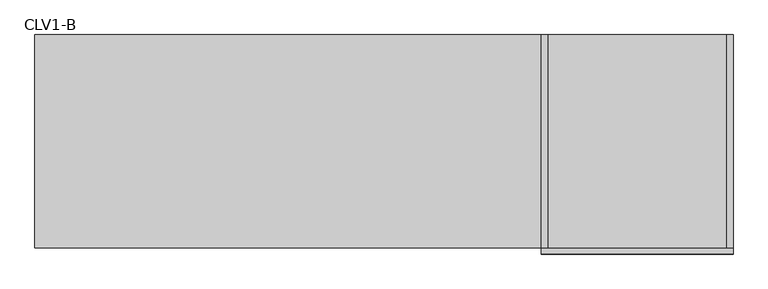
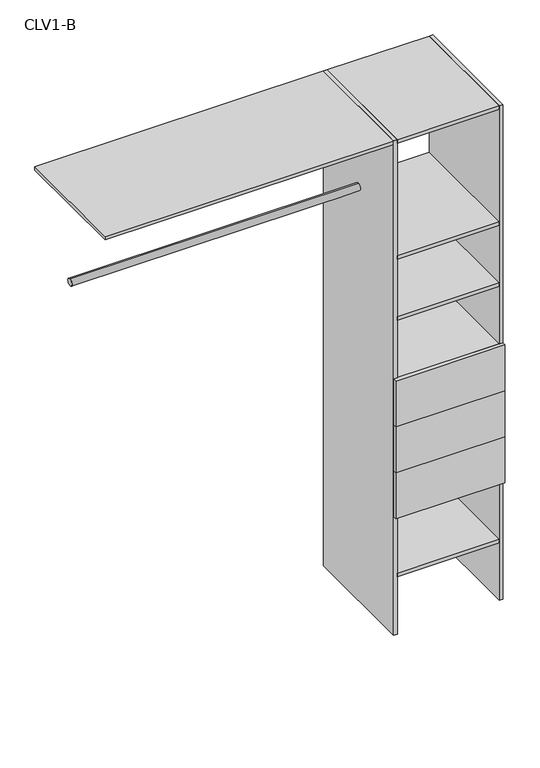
"""IFC4 building model written with IfcOpenShell, lengths in millimetres: furniture geometry, Closet 1estantes-1tubos_sin laterales : CLV1-B."""

from ifc_helpers import new_model, si_unit, point, frame, frame_2d, origin, origin_with_axes, place, context, project, spatial, polyline, circle_curve, trimmed, segment, composite_curve, outline, extrude, source, transform, mapped, element, save


def clv1_b_d41017fe(model_context):
    return source(origin(), model_context, "Body", "SweptSolid", [
        extrude(outline(polyline([(225.0, 100.0), (210.0, 100.0), (210.0, 600.0), (225.0, 600.0), (225.0, 100.0)])), origin_with_axes(), (0.0, 0.0, 1.0), 2150.0),
        extrude(outline(polyline([(-210.0, 100.0), (-225.0, 100.0), (-225.0, 600.0), (-210.0, 600.0), (-210.0, 100.0)])), origin_with_axes(), (0.0, 0.0, 1.0), 2150.0),
        extrude(outline(polyline([(225.0, 100.0), (225.0, 85.0), (-225.0, 85.0), (-225.0, 100.0), (225.0, 100.0)])), frame((0.0, 0.0, 915.0), z_axis=(0.0, 0.0, 1.0), x_axis=(1.0, 0.0, 0.0)), (0.0, 0.0, 1.0), 200.0),
        extrude(outline(polyline([(225.0, 100.0), (225.0, 85.0), (-225.0, 85.0), (-225.0, 100.0), (225.0, 100.0)])), frame((0.0, 0.0, 715.0), z_axis=(0.0, 0.0, 1.0), x_axis=(1.0, 0.0, 0.0)), (0.0, 0.0, 1.0), 200.0),
        extrude(outline(polyline([(225.0, 100.0), (225.0, 85.0), (-225.0, 85.0), (-225.0, 100.0), (225.0, 100.0)])), frame((0.0, 0.0, 515.0), z_axis=(0.0, 0.0, 1.0), x_axis=(1.0, 0.0, 0.0)), (0.0, 0.0, 1.0), 200.0),
        extrude(outline(polyline([(210.0, 100.0), (-210.0, 100.0), (-210.0, 600.0), (210.0, 600.0), (210.0, 100.0)])), frame((0.0, 0.0, 1100.0), z_axis=(0.0, 0.0, 1.0), x_axis=(1.0, 0.0, 0.0)), (0.0, 0.0, 1.0), 15.0),
        extrude(outline(composite_curve([segment(trimmed(circle_curve(frame_2d((350.0, 1800.0)), 15.0), [point((350.0, 1815.0))], [point((350.0, 1785.0))], False, "CARTESIAN"), True, "CONTINUOUS"), segment(trimmed(circle_curve(frame_2d((350.0, 1800.0)), 15.0), [point((350.0, 1785.0))], [point((350.0, 1815.0))], False, "CARTESIAN"), True, "CONTINUOUS")], self_intersect=False)), frame((-1413.0, 0.0, 0.0), z_axis=(1.0, 0.0, 0.0), x_axis=(0.0, 1.0, 0.0)), (0.0, 0.0, 1.0), 1188.0),
        extrude(outline(composite_curve([segment(trimmed(circle_curve(frame_2d((350.0, 1800.0)), 15.0), [point((350.0, 1815.0))], [point((350.0, 1785.0))], False, "CARTESIAN"), True, "CONTINUOUS"), segment(trimmed(circle_curve(frame_2d((350.0, 1800.0)), 15.0), [point((350.0, 1785.0))], [point((350.0, 1815.0))], False, "CARTESIAN"), True, "CONTINUOUS")], self_intersect=False)), frame((-1413.0, 0.0, 0.0), z_axis=(1.0, 0.0, 0.0), x_axis=(0.0, 1.0, 0.0)), (0.0, 0.0, 1.0), 1188.0),
        extrude(outline(polyline([(210.0, 100.0), (-210.0, 100.0), (-210.0, 600.0), (210.0, 600.0), (210.0, 100.0)])), frame((0.0, 0.0, 250.0), z_axis=(0.0, 0.0, 1.0), x_axis=(1.0, 0.0, 0.0)), (0.0, 0.0, 1.0), 15.0),
        extrude(outline(polyline([(210.0, 100.0), (-210.0, 100.0), (-210.0, 600.0), (210.0, 600.0), (210.0, 100.0)])), frame((0.0, 0.0, 515.0), z_axis=(0.0, 0.0, 1.0), x_axis=(1.0, 0.0, 0.0)), (0.0, 0.0, 1.0), 15.0),
        extrude(outline(polyline([(210.0, 100.0), (-210.0, 100.0), (-210.0, 600.0), (210.0, 600.0), (210.0, 100.0)])), frame((0.0, 0.0, 1365.0), z_axis=(0.0, 0.0, 1.0), x_axis=(1.0, 0.0, 0.0)), (0.0, 0.0, 1.0), 15.0),
        extrude(outline(polyline([(210.0, 100.0), (-210.0, 100.0), (-210.0, 600.0), (210.0, 600.0), (210.0, 100.0)])), frame((0.0, 0.0, 1630.0), z_axis=(0.0, 0.0, 1.0), x_axis=(1.0, 0.0, 0.0)), (0.0, 0.0, 1.0), 15.0),
        extrude(outline(polyline([(-210.0, 100.0), (-1413.0, 100.0), (-1413.0, 600.0), (-210.0, 600.0), (-210.0, 100.0)])), frame((0.0, 0.0, 2135.0), z_axis=(0.0, 0.0, 1.0), x_axis=(1.0, 0.0, 0.0)), (0.0, 0.0, 1.0), 15.0),
        extrude(outline(polyline([(210.0, 100.0), (-210.0, 100.0), (-210.0, 600.0), (210.0, 600.0), (210.0, 100.0)])), frame((0.0, 0.0, 2135.0), z_axis=(0.0, 0.0, 1.0), x_axis=(1.0, 0.0, 0.0)), (0.0, 0.0, 1.0), 15.0),
    ])


if __name__ == "__main__":
    model = new_model("IFC4")
    model_context = context("Model", 3, world=origin())
    ifc_project = project(units=[si_unit("LENGTHUNIT", "METRE", prefix="MILLI")], contexts=[model_context])
    site = spatial("IfcSite", under=ifc_project)
    building = spatial("IfcBuilding", under=site)
    placement = place(None, origin())
    clv1_b_shape = clv1_b_d41017fe(model_context)
    element("IfcFurniture", 1, ObjectType="Closet 1estantes-1tubos_sin laterales : CLV1-B", at=placement, inside=building, context=model_context, shape_type="MappedRepresentation", body=[
        mapped(clv1_b_shape, transform((0.0, 0.0, 0.0), x_axis=(1.0, 0.0, 0.0), y_axis=(0.0, 1.0, 0.0), z_axis=(0.0, 0.0, 1.0))),
    ])
    save(model, "model.ifc")
